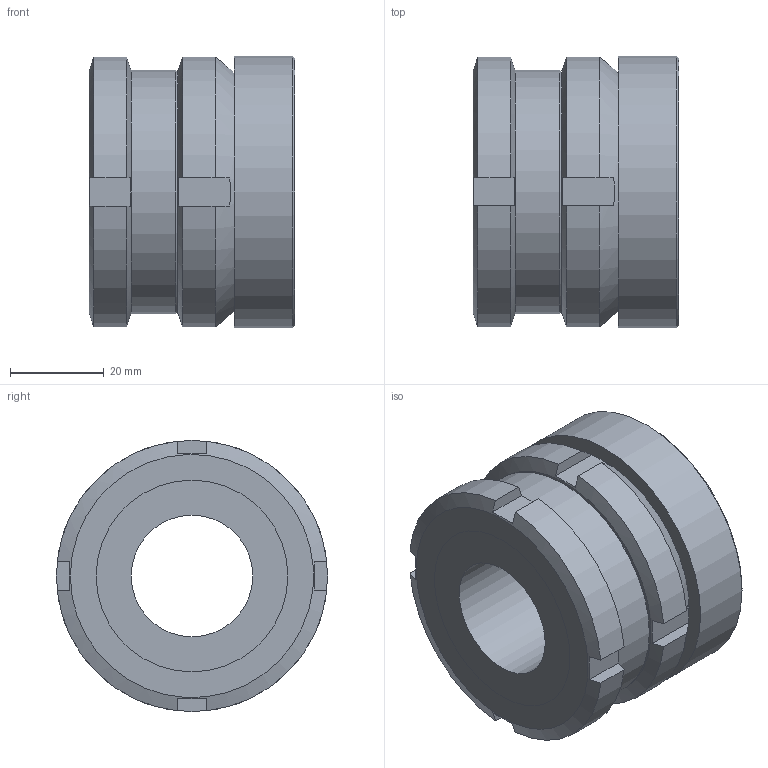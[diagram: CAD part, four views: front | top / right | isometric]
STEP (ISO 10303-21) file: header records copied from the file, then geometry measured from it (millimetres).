
FILE_DESCRIPTION( ( 'STEP AP203' ), '1' );
FILE_NAME( 'C:/Temp/Ganter_Step_05_03_2020/data/3_2/gn350_2/gn_350_2_ni/Stainless Steel-Levelling set GN 350.2-58-26-44-NI (0-0).stp', '2020-03-13T05:28:13', ( 'License CC BY-ND 4.0' ), ( 'CADENAS' ), ' ', 'PARTsolutions', ' ' );
FILE_SCHEMA( ( 'CONFIG_CONTROL_DESIGN' ) );
Length unit declared in the file: millimetre
Products named in the file (4): Stainless Steel-Levelling set GN 350.2-58-26-44-NI (0-0); _Levelling set GN 350.2-58-26-44-ST-G; _Levelling set GN 350.2-58-26-44-ST-K; _Levelling set GN 350.2-58-26-44-ST-P(0)
Assembly tree (3 placements, depth 2):
  Stainless Steel-Levelling set GN 350.2-58-26-44-NI (0-0)
    _Levelling set GN 350.2-58-26-44-ST-G
    _Levelling set GN 350.2-58-26-44-ST-K
    _Levelling set GN 350.2-58-26-44-ST-P(0)
Bounding box: 44 x 58 x 58 mm (x, y, z)
Volume: 82627.9 mm3; surface area: 28305.2 mm2
Topology: 3 solids, 3 shells, 62 faces, 149 edges, 99 vertices
Faces by surface type: plane 36, cylinder 19, cone 5, sphere 2
Full cylindrical faces by diameter (mm): 26 x1, 31.5 x1, 33.485 x1, 34.5 x1, 38.376 x1, 39 x1, 40 x1, 41 x2, 52 x1, 58 x1
Entity records: 1925 total; most frequent: CARTESIAN_POINT 462, DIRECTION 276, ORIENTED_EDGE 248, EDGE_CURVE 124, AXIS2_PLACEMENT_3D 122, EDGE_LOOP 92, VERTEX_POINT 92, FACE_OUTER_BOUND 75
